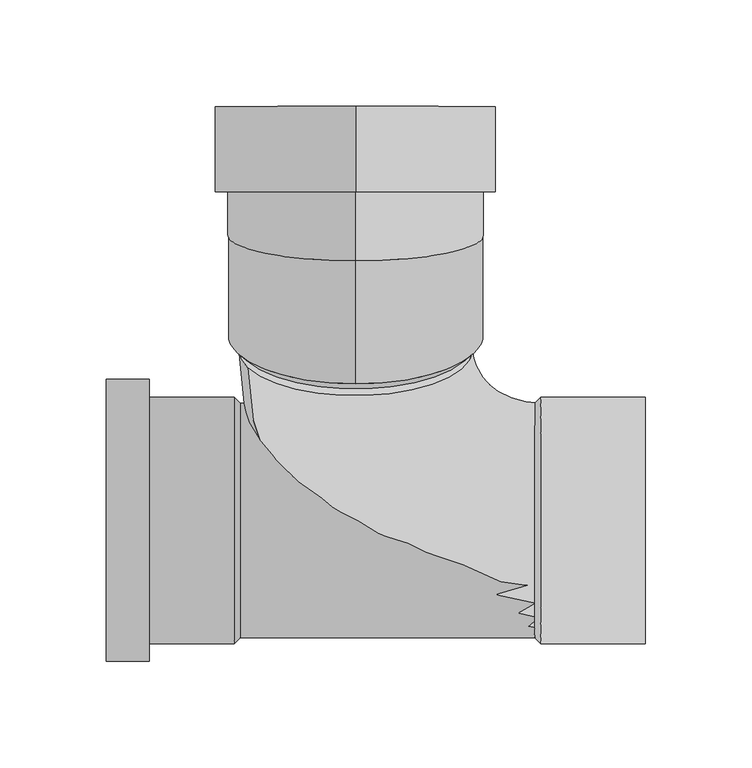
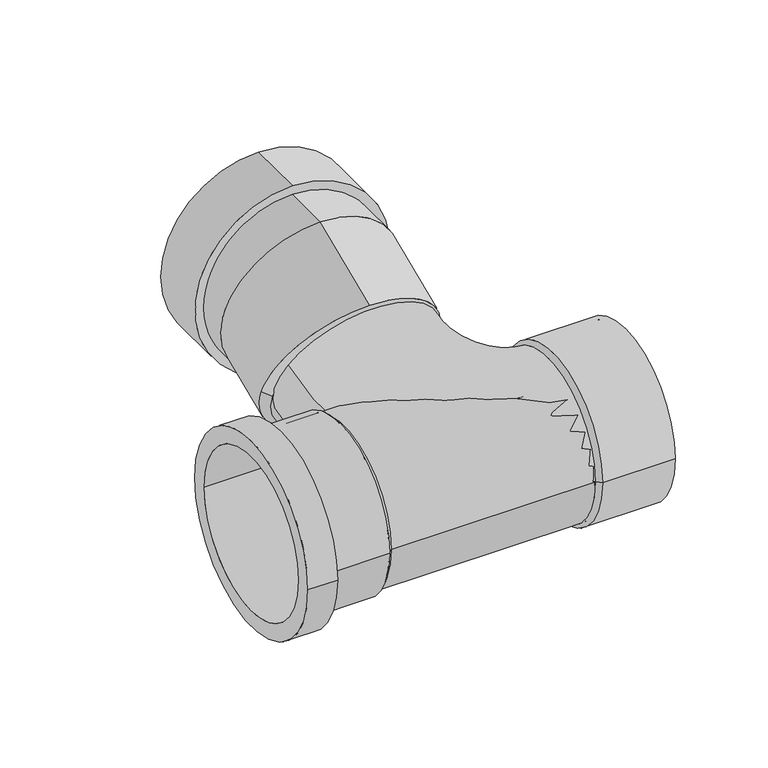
"""IFC4 building model written with IfcOpenShell, lengths in millimetres: pipe fitting geometry, Wavin_PipeAccessory_OsmaAccessoriesWcBranch : 23º."""

from ifc_helpers import new_model, si_unit, point, frame, origin, origin_2d, place, context, project, spatial, polyline, circle_curve, ellipse_curve, trimmed, segment, composite_curve, outline, extrude, source, transform, mapped, element, save
from ifc_brep_helpers import plane_surface, cylinder_surface, revolved_surface, advanced_brep


def pipe_fitting_864deae3(model_context):
    return source(origin(), model_context, "Body", "SolidModel", [
        advanced_brep(
        [(-54.1, -55.0, 0.0), (-54.1, 55.0, 0.0), (-117.0, 55.0, 0.0), (-117.0, -55.0, 0.0), (-97.0, -57.9, 0.0), (-97.0, 57.9, 0.0), (-57.0, 57.9, 0.0), (-57.0, -57.9, 0.0), (-117.0, -66.25, 0.0), (-117.0, 66.25, 0.0), (-97.0, 66.25, 0.0), (-97.0, -66.25, 0.0)],
        [
            (0, 1, circle_curve(frame((-54.1, 0.0, 0.0), z_axis=(1.0, 0.0, 0.0), x_axis=(0.0, 1.0000000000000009, 0.0)), 55.0)),
            (1, 2),
            (2, 3, circle_curve(frame((-117.0, 0.0, 0.0), z_axis=(-1.0, 0.0, 0.0), x_axis=(0.0, 1.0000000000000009, 0.0)), 55.0)),
            (3, 0),
            (4, 5, circle_curve(frame((-97.0, 0.0, 0.0), z_axis=(1.0, 0.0, 0.0), x_axis=(0.0, 1.0000000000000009, 0.0)), 57.9)),
            (5, 6),
            (6, 7, circle_curve(frame((-57.0, 0.0, 0.0), z_axis=(-1.0, 0.0, 0.0), x_axis=(0.0, 1.0000000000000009, 0.0)), 57.9)),
            (7, 4),
            (1, 0, circle_curve(frame((-54.1, 0.0, 0.0), z_axis=(1.0, 0.0, 0.0), x_axis=(0.0, -1.0000000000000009, 0.0)), 55.0)),
            (3, 2, circle_curve(frame((-117.0, 0.0, 0.0), z_axis=(-1.0, 0.0, 0.0), x_axis=(0.0, -1.0000000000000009, 0.0)), 55.0)),
            (5, 4, circle_curve(frame((-97.0, 0.0, 0.0), z_axis=(1.0, 0.0, 0.0), x_axis=(0.0, -1.0000000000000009, 0.0)), 57.9)),
            (7, 6, circle_curve(frame((-57.0, 0.0, 0.0), z_axis=(-1.0, 0.0, 0.0), x_axis=(0.0, -1.0000000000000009, 0.0)), 57.9)),
            (8, 9, circle_curve(frame((-117.0, 0.0, 0.0), z_axis=(1.0, 0.0, 0.0), x_axis=(0.0, 1.0000000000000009, 0.0)), 66.25)),
            (9, 10),
            (10, 11, circle_curve(frame((-97.0, 0.0, 0.0), z_axis=(-1.0, 0.0, 0.0), x_axis=(0.0, 1.0000000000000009, 0.0)), 66.25)),
            (11, 8),
            (10, 11, circle_curve(frame((-97.0, 0.0, 0.0), z_axis=(1.0, 0.0, 0.0), x_axis=(0.0, -1.0000000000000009, 0.0)), 66.25)),
            (9, 8, circle_curve(frame((-117.0, 0.0, 0.0), z_axis=(1.0, 0.0, 0.0), x_axis=(0.0, -1.0000000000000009, 0.0)), 66.25)),
            (6, 1),
            (0, 7),
        ],
        [
            revolved_surface(polyline([(-117.00000000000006, 55.00000000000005, 0.0), (-54.1, 55.00000000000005, 0.0)]), (-57.0, 0.0, 0.0), (-1.0000000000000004, 0.0, 0.0)),
            cylinder_surface(frame((-57.0, 0.0, 0.0), z_axis=(-1.0000000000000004, 0.0, 0.0), x_axis=(0.0, 1.0000000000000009, 0.0)), 57.9),
            revolved_surface(polyline([(-117.00000000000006, -55.00000000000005, 0.0), (-54.1, -55.00000000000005, 0.0)]), (-57.0, 0.0, 0.0), (-1.0000000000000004, 0.0, 0.0)),
            cylinder_surface(frame((-57.0, 0.0, 0.0), z_axis=(-1.0000000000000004, 0.0, 0.0), x_axis=(0.0, -1.0000000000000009, 0.0)), 57.9),
            cylinder_surface(frame((-57.0, 0.0, 0.0), z_axis=(-1.0000000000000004, 0.0, 0.0), x_axis=(0.0, 1.0000000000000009, 0.0)), 66.25),
            plane_surface(frame((-97.0, 0.0, 0.0), z_axis=(1.0, 0.0, 0.0), x_axis=(0.0, -1.0, 0.0))),
            cylinder_surface(frame((-57.0, 0.0, 0.0), z_axis=(-1.0000000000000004, 0.0, 0.0), x_axis=(0.0, -1.0000000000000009, 0.0)), 66.25),
            plane_surface(frame((-117.0, 0.0, 0.0), z_axis=(-1.0, 0.0, 0.0), x_axis=(0.0, -1.0, 0.0))),
            revolved_surface(polyline([(-54.1, 55.0, 0.0), (-57.0, 57.9, 0.0)]), (-57.0, 0.0, 0.0), (-1.0000000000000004, 0.0, 0.0)),
            revolved_surface(polyline([(-54.1, -55.0, 0.0), (-57.0, -57.9, 0.0)]), (-57.0, 0.0, 0.0), (-1.0000000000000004, 0.0, 0.0)),
        ],
        [
            (0, [[1, 2, 3, 4]]),
            (1, [[5, 6, 7, 8]]),
            (2, [[9, -4, 10, -2]]),
            (3, [[11, -8, 12, -6]]),
            (4, [[13, 14, 15, 16]]),
            (5, [[17, -15], [-11, -5]]),
            (6, [[18, -16, -17, -14]]),
            (7, [[-18, -13], [-10, -3]]),
            (8, [[-7, 19, -1, 20]]),
            (9, [[-12, -20, -9, -19]]),
        ],
    ),
        advanced_brep(
        [(87.0, 57.9, 0.0), (87.0, -57.9, 0.0), (84.1, -55.0, 0.0), (84.1, 55.0, 0.0), (136.0, 57.9, 0.0), (136.0, -57.9, 0.0), (136.0, -55.0, 0.0), (136.0, 55.0, 0.0)],
        [
            (0, 1, circle_curve(frame((87.0, 0.0, 0.0), z_axis=(-1.0, 0.0, 0.0), x_axis=(0.0, -1.0, 0.0)), 57.9)),
            (1, 2),
            (2, 3, circle_curve(frame((84.1, 0.0, 0.0), z_axis=(1.0, 0.0, 0.0), x_axis=(0.0, -1.0, 0.0)), 55.0)),
            (3, 0),
            (4, 5, circle_curve(frame((136.0, 0.0, 0.0), z_axis=(-1.0, 0.0, 0.0), x_axis=(0.0, -1.0, 0.0)), 57.9)),
            (5, 1),
            (0, 4),
            (2, 6),
            (6, 7, circle_curve(frame((136.0, 0.0, 0.0), z_axis=(1.0, 0.0, 0.0), x_axis=(0.0, -1.0, 0.0)), 55.0)),
            (7, 3),
            (1, 0, circle_curve(frame((87.0, 0.0, 0.0), z_axis=(-1.0, 0.0, 0.0), x_axis=(0.0, 1.0, 0.0)), 57.9)),
            (3, 2, circle_curve(frame((84.1, 0.0, 0.0), z_axis=(1.0, 0.0, 0.0), x_axis=(0.0, 1.0, 0.0)), 55.0)),
            (5, 4, circle_curve(frame((136.0, 0.0, 0.0), z_axis=(-1.0, 0.0, 0.0), x_axis=(0.0, 1.0, 0.0)), 57.9)),
            (6, 7, circle_curve(frame((136.0, 0.0, 0.0), z_axis=(-1.0, 0.0, 0.0), x_axis=(0.0, 1.0, 0.0)), 55.0)),
        ],
        [
            revolved_surface(polyline([(84.1, -55.0, 0.0), (87.0, -57.9, 0.0)]), (87.0, 0.0, 0.0), (1.0, 0.0, 0.0)),
            cylinder_surface(frame((87.0, 0.0, 0.0), z_axis=(1.0, 0.0, 0.0), x_axis=(0.0, -1.0, 0.0)), 57.9),
            revolved_surface(polyline([(136.0, -55.0, 0.0), (84.1, -55.0, 0.0)]), (87.0, 0.0, 0.0), (1.0, 0.0, 0.0)),
            revolved_surface(polyline([(84.1, 55.0, 0.0), (87.0, 57.9, 0.0)]), (87.0, 0.0, 0.0), (1.0, 0.0, 0.0)),
            cylinder_surface(frame((87.0, 0.0, 0.0), z_axis=(1.0, 0.0, 0.0), x_axis=(0.0, 1.0, 0.0)), 57.9),
            plane_surface(frame((136.0, 0.0, 0.0), z_axis=(1.0, 0.0, 0.0), x_axis=(0.0, 1.0, 0.0))),
            revolved_surface(polyline([(136.0, 55.0, 0.0), (84.1, 55.0, 0.0)]), (87.0, 0.0, 0.0), (1.0, 0.0, 0.0)),
        ],
        [
            (0, [[1, 2, 3, 4]]),
            (1, [[5, 6, -1, 7]]),
            (2, [[-3, 8, 9, 10]]),
            (3, [[11, -4, 12, -2]]),
            (4, [[13, -7, -11, -6]]),
            (5, [[-13, -5], [14, -9]]),
            (6, [[-12, -10, -14, -8]]),
        ],
    ),
        advanced_brep(
        [(87.0, -55.0, 0.0), (87.0, 55.0, 0.0), (50.6277669, 88.4808171, 14.2117637), (-50.6277669, 71.6870274, 53.7754527)],
        [
            (0, 1, circle_curve(frame((87.0, 0.0, 0.0), z_axis=(1.0, 0.0, 0.0), x_axis=(0.0, 1.0, 0.0)), 55.0)),
            (1, 0, circle_curve(frame((87.0, 0.0, 0.0), z_axis=(1.0, 0.0, 0.0), x_axis=(0.0, 1.0, 0.0)), 55.0)),
            (2, 1, circle_curve(frame((87.0, 88.4808171, 14.2117637), z_axis=(0.0, -0.3907311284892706, 0.9205048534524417), x_axis=(0.0, -0.9205048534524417, -0.3907311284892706)), 36.3722331)),
            (0, 3, circle_curve(frame((87.0, 71.6870274, 53.7754527), z_axis=(0.0, 0.3907311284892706, -0.9205048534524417), x_axis=(0.0, -0.9205048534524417, -0.3907311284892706)), 137.6277669)),
            (3, 2, circle_curve(frame((0.0, 80.0839223, 33.9936082), z_axis=(0.0, -0.9205048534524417, -0.3907311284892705), x_axis=(0.9205048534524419, 0.15267081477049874, -0.35966990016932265)), 55.0)),
            (2, 3, circle_curve(frame((0.0, 80.0839223, 33.9936082), z_axis=(0.0, -0.9205048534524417, -0.3907311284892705), x_axis=(0.9205048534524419, 0.15267081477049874, -0.35966990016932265)), 55.0)),
        ],
        [
            plane_surface(frame((87.0, 99.6204787, -12.0316345), z_axis=(1.0, 0.0, 0.0), x_axis=(0.0, -0.9205048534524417, -0.3907311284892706))),
            revolved_surface(trimmed(ellipse_curve(frame((87.0, 0.0, 0.0), z_axis=(1.0, 0.0, 0.0), x_axis=(0.0, 1.0, 0.0)), 55.0, 55.0), [point((87.0, -55.0, 0.0))], [point((87.0, 55.0, 0.0))], True, "CARTESIAN"), (87.0, 99.6204787, -12.0316345), (0.0, 0.3907311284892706, -0.9205048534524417)),
            revolved_surface(trimmed(ellipse_curve(frame((87.0, 0.0, 0.0), z_axis=(1.0, 0.0, 0.0), x_axis=(0.0, 1.0, 0.0)), 55.0, 55.0), [point((87.0, 55.0, 0.0))], [point((87.0, -55.0, 0.0))], True, "CARTESIAN"), (87.0, 99.6204787, -12.0316345), (0.0, 0.3907311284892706, -0.9205048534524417)),
            plane_surface(frame((87.0, 99.6204787, -12.0316345), z_axis=(0.0, 0.9205048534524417, 0.3907311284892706), x_axis=(-1.0, 0.0, 0.0))),
        ],
        [
            (0, [[1, 2]]),
            (1, [[3, -1, 4, 5]]),
            (2, [[-4, -2, -3, 6]]),
            (3, [[-6, -5]]),
        ],
    ),
        advanced_brep(
        [(0.0, 194.3015921, -18.0), (0.0, 194.3015921, 114.0), (0.0, 194.3015921, 104.5), (0.0, 194.3015921, -8.5), (0.0, 121.7792987, 108.0), (0.0, 146.1935747, -12.0), (0.0, 154.3015921, -12.0), (0.0, 154.3015921, 108.0), (0.0, 64.0804768, 83.5083032), (60.0, 87.5243445, 28.2780119), (0.0, 110.9682122, -26.9522793), (-60.0, 87.5243445, 28.2780119), (0.0, 154.3015921, -18.0), (0.0, 154.3015921, 114.0), (0.0, 124.3015921, 104.5), (0.0, 124.3015921, -8.5), (55.0, 82.9218202, 26.3243563), (-55.0, 82.9218202, 26.3243563)],
        [
            (0, 1, circle_curve(frame((0.0, 194.3015921, 48.0), z_axis=(0.0, 1.0, 0.0), x_axis=(0.0, 0.0, 1.0)), 66.0)),
            (1, 0, circle_curve(frame((0.0, 194.3015921, 48.0), z_axis=(0.0, 1.0, 0.0), x_axis=(0.0, 0.0, 1.0)), 66.0)),
            (2, 3, circle_curve(frame((0.0, 194.3015921, 48.0), z_axis=(0.0, -1.0, 0.0), x_axis=(0.0, 0.0, -1.0)), 56.5)),
            (3, 2, circle_curve(frame((0.0, 194.3015921, 48.0), z_axis=(0.0, -1.0, 0.0), x_axis=(0.0, 0.0, -1.0)), 56.5)),
            (4, 5, ellipse_curve(frame((0.0, 133.9864367, 48.0), z_axis=(0.0, 0.9799247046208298, 0.1993679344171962), x_axis=(0.0, 0.1993679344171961, -0.9799247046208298)), 61.2291942, 60.0)),
            (5, 6),
            (6, 7, circle_curve(frame((0.0, 154.3015921, 48.0), z_axis=(0.0, -1.0, 0.0), x_axis=(0.0, 0.0, -1.0)), 60.0)),
            (7, 4),
            (5, 4, ellipse_curve(frame((0.0, 133.9864367, 48.0), z_axis=(0.0, 0.9799247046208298, 0.1993679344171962), x_axis=(0.0, 0.1993679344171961, -0.9799247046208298)), 61.2291942, 60.0)),
            (7, 6, circle_curve(frame((0.0, 154.3015921, 48.0), z_axis=(0.0, -1.0, 0.0), x_axis=(0.0, 0.0, -1.0)), 60.0)),
            (4, 8),
            (8, 9, circle_curve(frame((0.0, 87.5243445, 28.2780119), z_axis=(0.0, 0.9205048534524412, 0.3907311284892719), x_axis=(0.0, 0.3907311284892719, -0.9205048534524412)), 60.0)),
            (9, 10, circle_curve(frame((0.0, 87.5243445, 28.2780119), z_axis=(0.0, 0.9205048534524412, 0.3907311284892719), x_axis=(0.0, 0.3907311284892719, -0.9205048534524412)), 60.0)),
            (10, 5),
            (10, 11, circle_curve(frame((0.0, 87.5243445, 28.2780119), z_axis=(0.0, 0.9205048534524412, 0.3907311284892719), x_axis=(0.0, 0.3907311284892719, -0.9205048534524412)), 60.0)),
            (11, 8, circle_curve(frame((0.0, 87.5243445, 28.2780119), z_axis=(0.0, 0.9205048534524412, 0.3907311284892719), x_axis=(0.0, 0.3907311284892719, -0.9205048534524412)), 60.0)),
            (12, 13, circle_curve(frame((0.0, 154.3015921, 48.0), z_axis=(0.0, -1.0, 0.0), x_axis=(0.0, 0.0, 1.0)), 66.0)),
            (13, 12, circle_curve(frame((0.0, 154.3015921, 48.0), z_axis=(0.0, -1.0, 0.0), x_axis=(0.0, 0.0, 1.0)), 66.0)),
            (13, 1),
            (0, 12),
            (14, 15, circle_curve(frame((0.0, 124.3015921, 48.0), z_axis=(0.0, 1.0, 0.0), x_axis=(0.0, 0.0, -1.0)), 56.5)),
            (15, 14, circle_curve(frame((0.0, 124.3015921, 48.0), z_axis=(0.0, 1.0, 0.0), x_axis=(0.0, 0.0, -1.0)), 56.5)),
            (15, 3),
            (2, 14),
            (9, 16),
            (16, 17, circle_curve(frame((0.0, 82.9218202, 26.3243563), z_axis=(0.0, 0.9205048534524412, 0.3907311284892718), x_axis=(-1.0, 0.0, 0.0)), 55.0)),
            (17, 11),
            (17, 16, circle_curve(frame((0.0, 82.9218202, 26.3243563), z_axis=(0.0, 0.9205048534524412, 0.3907311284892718), x_axis=(1.0, 0.0, 0.0)), 55.0)),
        ],
        [
            plane_surface(frame((0.0, 194.3015921, 48.0), z_axis=(0.0, 1.0, 0.0), x_axis=(1.0, 0.0, 0.0))),
            cylinder_surface(frame((0.0, 194.3015921, 48.0), z_axis=(0.0, 1.0, 0.0), x_axis=(0.0, 0.0, -1.0)), 60.0),
            cylinder_surface(frame((0.0, 133.9864367, 48.0), z_axis=(0.0, 0.9205048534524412, 0.3907311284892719), x_axis=(0.0, 0.3907311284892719, -0.9205048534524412)), 60.0),
            plane_surface(frame((0.0, 154.3015921, 114.0), z_axis=(0.0, -1.0, 0.0), x_axis=(-1.0, 0.0, 0.0))),
            cylinder_surface(frame((0.0, 154.3015921, 48.0), z_axis=(0.0, 1.0, 0.0), x_axis=(0.0, 0.0, 1.0)), 66.0),
            plane_surface(frame((0.0, 124.3015921, -8.5), z_axis=(0.0, 1.0, 0.0), x_axis=(1.0, 0.0, 0.0))),
            revolved_surface(polyline([(0.0, 124.3015921, -8.5), (0.0, 194.3015921, -8.5)]), (0.0, 194.3015921, 48.0), (0.0, -1.0, 0.0)),
            revolved_surface(polyline([(-60.0, 87.5243445, 28.2780119), (-55.0, 82.9218202, 26.3243563)]), (0.0, 82.9218202, 26.3243563), (0.0, -0.9205048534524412, -0.3907311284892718)),
            revolved_surface(polyline([(60.0, 87.5243445, 28.2780119), (55.0, 82.9218202, 26.3243563)]), (0.0, 82.9218202, 26.3243563), (0.0, -0.9205048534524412, -0.3907311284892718)),
            plane_surface(frame((0.0, 82.9218202, 26.3243563), z_axis=(0.0, -0.9205048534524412, -0.39073112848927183), x_axis=(1.0, 0.0, 0.0))),
        ],
        [
            (0, [[1, 2], [3, 4]]),
            (1, [[5, 6, 7, 8]]),
            (1, [[9, -8, 10, -6]]),
            (2, [[-5, 11, 12, 13, 14]]),
            (2, [[-9, -14, 15, 16, -11]]),
            (3, [[17, 18], [-7, -10]]),
            (4, [[-18, 19, -1, 20]]),
            (4, [[-17, -20, -2, -19]]),
            (5, [[21, 22]]),
            (6, [[-22, 23, -3, 24]]),
            (6, [[-21, -24, -4, -23]]),
            (7, [[25, 26, 27, -15, -13]]),
            (8, [[-25, -12, -16, -27, 28]]),
            (9, [[-26, -28]]),
        ],
    ),
        extrude(outline(composite_curve([segment(trimmed(circle_curve(origin_2d(), 55.0), [point((-55.0, 0.0))], [point((55.0, 0.0))], False, "CARTESIAN"), True, "CONTINUOUS"), segment(trimmed(circle_curve(origin_2d(), 55.0), [point((55.0, 0.0))], [point((-55.0, 0.0))], False, "CARTESIAN"), True, "CONTINUOUS")], self_intersect=False)), frame((-57.0, 0.0, 0.0), z_axis=(1.0, 0.0, 0.0), x_axis=(0.0, 1.0, 0.0)), (0.0, 0.0, 1.0), 144.0),
    ])


if __name__ == "__main__":
    model = new_model("IFC4")
    model_context = context("Model", 3, world=origin())
    ifc_project = project(units=[si_unit("LENGTHUNIT", "METRE", prefix="MILLI")], contexts=[model_context])
    site = spatial("IfcSite", under=ifc_project)
    building = spatial("IfcBuilding", under=site)
    placement = place(None, origin())
    pipe_fitting_shape = pipe_fitting_864deae3(model_context)
    element("IfcPipeFitting", 1, ObjectType="Wavin_PipeAccessory_OsmaAccessoriesWcBranch : 23º", at=placement, inside=building, context=model_context, shape_type="MappedRepresentation", body=[
        mapped(pipe_fitting_shape, transform((0.0, 0.0, 0.0), x_axis=(1.0, 0.0, 0.0), y_axis=(0.0, 1.0, 0.0), z_axis=(0.0, 0.0, 1.0))),
    ])
    save(model, "model.ifc")
